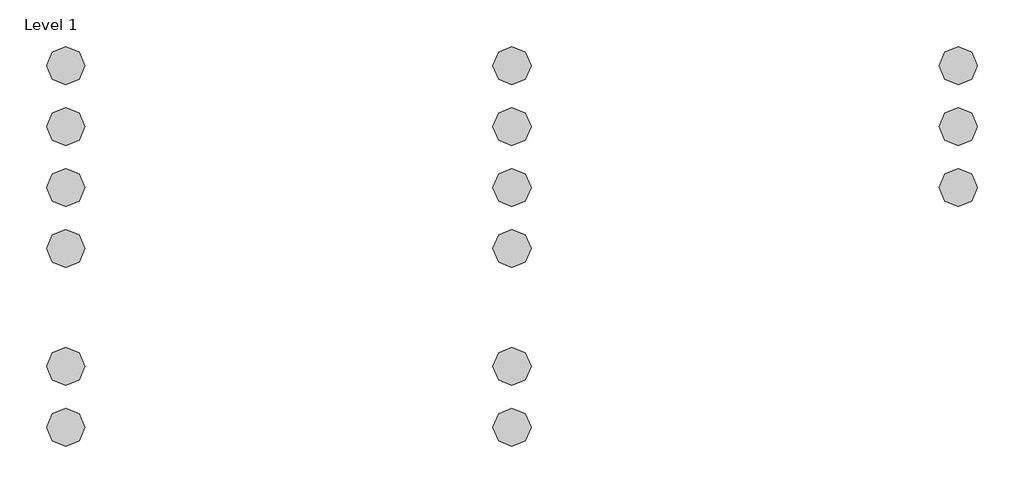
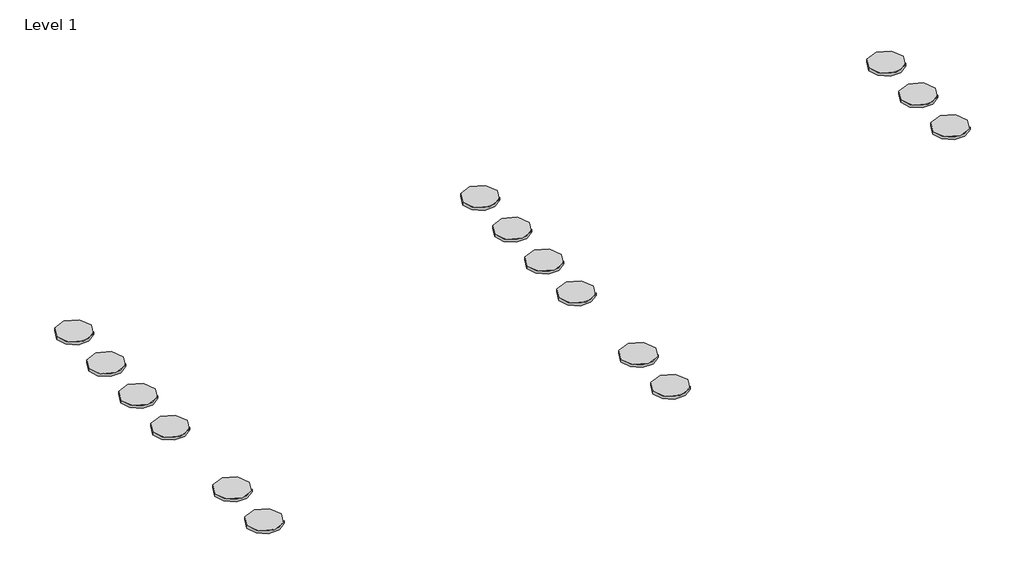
# One storey, incomplete: 15 proxies.
"""IFC4 building model written with IfcOpenShell, lengths in millimetres."""

from ifc_helpers import new_model, si_unit, origin, place, context, project, spatial, transform, mapped, element, save
from components import materialmodel_materialmodel_2fe208e2

model = new_model("IFC4")

# Units and contexts
model_context = context("Model", 3, world=origin())
ifc_project = project(units=[si_unit("LENGTHUNIT", "METRE", prefix="MILLI")], contexts=[model_context])

# Site, building, storey
site = spatial("IfcSite", under=ifc_project)
building = spatial("IfcBuilding", under=site)
storey = spatial("IfcBuildingStorey", under=building, Name="Level 1", Elevation=0.0)

# Proxies
placement = place(None, origin())
materialmodel_materialmodel_shape = materialmodel_materialmodel_2fe208e2(model_context)
element("IfcBuildingElementProxy", 1, Name="MaterialModel : MaterialModel", ObjectType="MaterialModel : MaterialModel", at=placement, inside=storey, context=model_context, shape_type="MappedRepresentation", body=[
    mapped(materialmodel_materialmodel_shape, transform((-16642.7431485, 11606.8841587, 0.0), x_axis=(1.0, 0.0, 0.0), y_axis=(0.0, 1.0, 0.0), z_axis=(0.0, 0.0, 1.0))),
])
element("IfcBuildingElementProxy", 2, Name="MaterialModel : MaterialModel", ObjectType="MaterialModel : MaterialModel", at=placement, inside=storey, context=model_context, shape_type="MappedRepresentation", body=[
    mapped(materialmodel_materialmodel_shape, transform((-16642.7431485, 11286.8841587, 0.0), x_axis=(1.0, 0.0, 0.0), y_axis=(0.0, 1.0, 0.0), z_axis=(0.0, 0.0, 1.0))),
])
element("IfcBuildingElementProxy", 3, Name="MaterialModel : MaterialModel", ObjectType="MaterialModel : MaterialModel", at=placement, inside=storey, context=model_context, shape_type="MappedRepresentation", body=[
    mapped(materialmodel_materialmodel_shape, transform((-16642.7431485, 10966.8841587, 0.0), x_axis=(1.0, 0.0, 0.0), y_axis=(0.0, 1.0, 0.0), z_axis=(0.0, 0.0, 1.0))),
])
element("IfcBuildingElementProxy", 4, Name="MaterialModel : MaterialModel", ObjectType="MaterialModel : MaterialModel", at=placement, inside=storey, context=model_context, shape_type="MappedRepresentation", body=[
    mapped(materialmodel_materialmodel_shape, transform((-14301.4752181, 11606.8841587, 0.0), x_axis=(1.0, 0.0, 0.0), y_axis=(0.0, 1.0, 0.0), z_axis=(0.0, 0.0, 1.0))),
])
element("IfcBuildingElementProxy", 5, Name="MaterialModel : MaterialModel", ObjectType="MaterialModel : MaterialModel", at=placement, inside=storey, context=model_context, shape_type="MappedRepresentation", body=[
    mapped(materialmodel_materialmodel_shape, transform((-14301.4752181, 11286.8841587, 0.0), x_axis=(1.0, 0.0, 0.0), y_axis=(0.0, 1.0, 0.0), z_axis=(0.0, 0.0, 1.0))),
])
element("IfcBuildingElementProxy", 6, Name="MaterialModel : MaterialModel", ObjectType="MaterialModel : MaterialModel", at=placement, inside=storey, context=model_context, shape_type="MappedRepresentation", body=[
    mapped(materialmodel_materialmodel_shape, transform((-14301.4752181, 10966.8841587, 0.0), x_axis=(1.0, 0.0, 0.0), y_axis=(0.0, 1.0, 0.0), z_axis=(0.0, 0.0, 1.0))),
])
element("IfcBuildingElementProxy", 7, Name="MaterialModel : MaterialModel", ObjectType="MaterialModel : MaterialModel", at=placement, inside=storey, context=model_context, shape_type="MappedRepresentation", body=[
    mapped(materialmodel_materialmodel_shape, transform((-11960.2072876, 11606.8841587, 0.0), x_axis=(1.0, 0.0, 0.0), y_axis=(0.0, 1.0, 0.0), z_axis=(0.0, 0.0, 1.0))),
])
element("IfcBuildingElementProxy", 8, Name="MaterialModel : MaterialModel", ObjectType="MaterialModel : MaterialModel", at=placement, inside=storey, context=model_context, shape_type="MappedRepresentation", body=[
    mapped(materialmodel_materialmodel_shape, transform((-11960.2072876, 11286.8841587, 0.0), x_axis=(1.0, 0.0, 0.0), y_axis=(0.0, 1.0, 0.0), z_axis=(0.0, 0.0, 1.0))),
])
element("IfcBuildingElementProxy", 9, Name="MaterialModel : MaterialModel", ObjectType="MaterialModel : MaterialModel", at=placement, inside=storey, context=model_context, shape_type="MappedRepresentation", body=[
    mapped(materialmodel_materialmodel_shape, transform((-11960.2072876, 10966.8841587, 0.0), x_axis=(1.0, 0.0, 0.0), y_axis=(0.0, 1.0, 0.0), z_axis=(0.0, 0.0, 1.0))),
])
element("IfcBuildingElementProxy", 10, Name="MaterialModel : MaterialModel", ObjectType="MaterialModel : MaterialModel", at=placement, inside=storey, context=model_context, shape_type="MappedRepresentation", body=[
    mapped(materialmodel_materialmodel_shape, transform((-16642.7431485, 10646.8841587, 0.0), x_axis=(1.0, 0.0, 0.0), y_axis=(0.0, 1.0, 0.0), z_axis=(0.0, 0.0, 1.0))),
])
element("IfcBuildingElementProxy", 11, Name="MaterialModel : MaterialModel", ObjectType="MaterialModel : MaterialModel", at=placement, inside=storey, context=model_context, shape_type="MappedRepresentation", body=[
    mapped(materialmodel_materialmodel_shape, transform((-14301.4752181, 10646.8841587, 0.0), x_axis=(1.0, 0.0, 0.0), y_axis=(0.0, 1.0, 0.0), z_axis=(0.0, 0.0, 1.0))),
])
element("IfcBuildingElementProxy", 12, Name="MaterialModel : MaterialModel", ObjectType="MaterialModel : MaterialModel", at=placement, inside=storey, context=model_context, shape_type="MappedRepresentation", body=[
    mapped(materialmodel_materialmodel_shape, transform((-16642.7431485, 10026.8841587, 0.0), x_axis=(1.0, 0.0, 0.0), y_axis=(0.0, 1.0, 0.0), z_axis=(0.0, 0.0, 1.0))),
])
element("IfcBuildingElementProxy", 13, Name="MaterialModel : MaterialModel", ObjectType="MaterialModel : MaterialModel", at=placement, inside=storey, context=model_context, shape_type="MappedRepresentation", body=[
    mapped(materialmodel_materialmodel_shape, transform((-16642.7431485, 9706.8841587, 0.0), x_axis=(1.0, 0.0, 0.0), y_axis=(0.0, 1.0, 0.0), z_axis=(0.0, 0.0, 1.0))),
])
element("IfcBuildingElementProxy", 14, Name="MaterialModel : MaterialModel", ObjectType="MaterialModel : MaterialModel", at=placement, inside=storey, context=model_context, shape_type="MappedRepresentation", body=[
    mapped(materialmodel_materialmodel_shape, transform((-14301.4752181, 10026.8841587, 0.0), x_axis=(1.0, 0.0, 0.0), y_axis=(0.0, 1.0, 0.0), z_axis=(0.0, 0.0, 1.0))),
])
element("IfcBuildingElementProxy", 15, Name="MaterialModel : MaterialModel", ObjectType="MaterialModel : MaterialModel", at=placement, inside=storey, context=model_context, shape_type="MappedRepresentation", body=[
    mapped(materialmodel_materialmodel_shape, transform((-14301.4752181, 9706.8841587, 0.0), x_axis=(1.0, 0.0, 0.0), y_axis=(0.0, 1.0, 0.0), z_axis=(0.0, 0.0, 1.0))),
])

save(model, "model.ifc")
